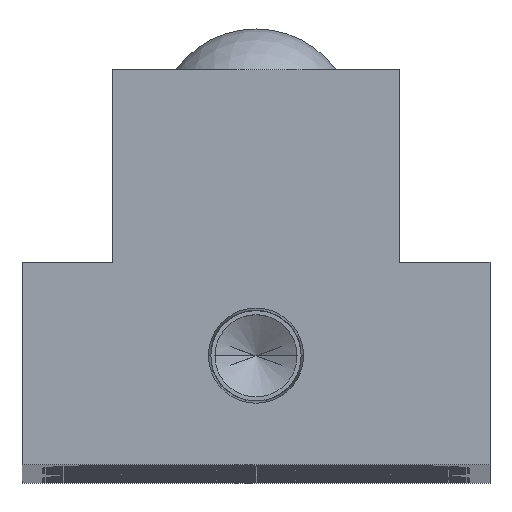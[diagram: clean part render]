
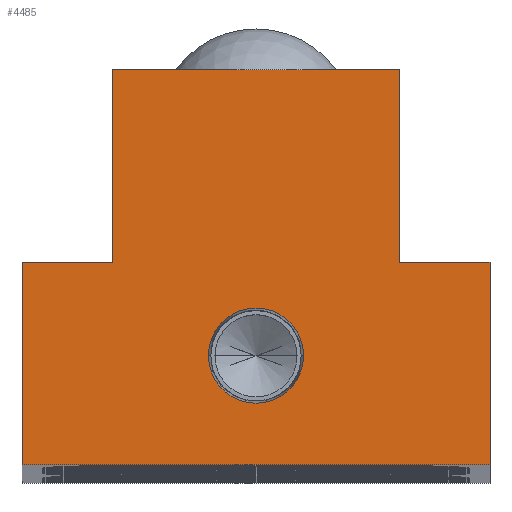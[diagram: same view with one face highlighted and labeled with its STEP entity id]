
A CAD part, top view. The second image highlights one B-rep face of the part: STEP entity #4485.
In plain terms, the highlighted planar face has unit normal (0, 0, 1).
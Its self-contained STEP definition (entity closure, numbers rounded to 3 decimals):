
#96 = LINE ( 'NONE', #17527, #14506 ) ;
#398 = CIRCLE ( 'NONE', #16063, 4.574 ) ;
#704 = EDGE_LOOP ( 'NONE', ( #10262, #10228 ) ) ;
#1515 = LINE ( 'NONE', #18096, #15492 ) ;
#1892 = AXIS2_PLACEMENT_3D ( 'NONE', #3346, #13091, #4758 ) ;
#1984 = DIRECTION ( 'NONE',  ( 0., 0., -1. ) ) ;
#2213 = EDGE_LOOP ( 'NONE', ( #8775, #17348, #9453, #2744, #15029, #15275, #4323, #14513 ) ) ;
#2595 = VECTOR ( 'NONE', #12743, 1000. ) ;
#2611 = DIRECTION ( 'NONE',  ( 0., -1., 0. ) ) ;
#2744 = ORIENTED_EDGE ( 'NONE', *, *, #11717, .T. ) ;
#3032 = DIRECTION ( 'NONE',  ( -1., 0., 0. ) ) ;
#3043 = LINE ( 'NONE', #11342, #2595 ) ;
#3076 = CARTESIAN_POINT ( 'NONE',  ( 0., 10.5, 0. ) ) ;
#3300 = CARTESIAN_POINT ( 'NONE',  ( -22.5, 0., 0. ) ) ;
#3346 = CARTESIAN_POINT ( 'NONE',  ( 0., 10.5, 0. ) ) ;
#3805 = EDGE_CURVE ( 'NONE', #17027, #16909, #8686, .T. ) ;
#3850 = CIRCLE ( 'NONE', #1892, 4.574 ) ;
#4323 = ORIENTED_EDGE ( 'NONE', *, *, #9899, .T. ) ;
#4485 = ADVANCED_FACE ( 'NONE', ( #16772, #17206 ), #13015, .F. ) ;
#4490 = DIRECTION ( 'NONE',  ( 1., 0., 0. ) ) ;
#4571 = VECTOR ( 'NONE', #2611, 1000. ) ;
#4708 = DIRECTION ( 'NONE',  ( 0., -1., 0. ) ) ;
#4758 = DIRECTION ( 'NONE',  ( 1., 0., 0. ) ) ;
#5252 = CARTESIAN_POINT ( 'NONE',  ( 13.75, 38., 0. ) ) ;
#5449 = VERTEX_POINT ( 'NONE', #9586 ) ;
#6249 = LINE ( 'NONE', #12766, #13225 ) ;
#6432 = EDGE_CURVE ( 'NONE', #14026, #6479, #96, .T. ) ;
#6479 = VERTEX_POINT ( 'NONE', #17651 ) ;
#6553 = VERTEX_POINT ( 'NONE', #5252 ) ;
#6631 = CARTESIAN_POINT ( 'NONE',  ( 22.5, 0., 0. ) ) ;
#6790 = CARTESIAN_POINT ( 'NONE',  ( -13.75, 19.5, 0. ) ) ;
#7799 = CARTESIAN_POINT ( 'NONE',  ( 22.5, 0., 0. ) ) ;
#8214 = CARTESIAN_POINT ( 'NONE',  ( -13.75, 38., 0. ) ) ;
#8455 = LINE ( 'NONE', #8827, #15036 ) ;
#8686 = LINE ( 'NONE', #8214, #4571 ) ;
#8775 = ORIENTED_EDGE ( 'NONE', *, *, #6432, .T. ) ;
#8827 = CARTESIAN_POINT ( 'NONE',  ( -22.5, 19.5, 0. ) ) ;
#9320 = EDGE_CURVE ( 'NONE', #17215, #6553, #1515, .T. ) ;
#9453 = ORIENTED_EDGE ( 'NONE', *, *, #9320, .T. ) ;
#9538 = LINE ( 'NONE', #6790, #16568 ) ;
#9586 = CARTESIAN_POINT ( 'NONE',  ( 4.574, 10.5, 0. ) ) ;
#9899 = EDGE_CURVE ( 'NONE', #14125, #13218, #8455, .T. ) ;
#10118 = VERTEX_POINT ( 'NONE', #16473 ) ;
#10228 = ORIENTED_EDGE ( 'NONE', *, *, #17355, .F. ) ;
#10262 = ORIENTED_EDGE ( 'NONE', *, *, #10876, .F. ) ;
#10740 = EDGE_CURVE ( 'NONE', #16909, #14125, #9538, .T. ) ;
#10876 = EDGE_CURVE ( 'NONE', #5449, #10118, #398, .T. ) ;
#11076 = CARTESIAN_POINT ( 'NONE',  ( -22.5, 19.5, 0. ) ) ;
#11264 = CARTESIAN_POINT ( 'NONE',  ( 13.75, 19.5, 0. ) ) ;
#11342 = CARTESIAN_POINT ( 'NONE',  ( 22.5, 19.5, 0. ) ) ;
#11717 = EDGE_CURVE ( 'NONE', #6553, #17027, #6249, .T. ) ;
#11725 = DIRECTION ( 'NONE',  ( -1., 0., 0. ) ) ;
#11872 = CARTESIAN_POINT ( 'NONE',  ( -13.75, 19.5, 0. ) ) ;
#11947 = DIRECTION ( 'NONE',  ( 0., 1., 0. ) ) ;
#12743 = DIRECTION ( 'NONE',  ( -1., 0., 0. ) ) ;
#12766 = CARTESIAN_POINT ( 'NONE',  ( -13.75, 38., 0. ) ) ;
#12815 = DIRECTION ( 'NONE',  ( 0., 0., 1. ) ) ;
#13015 = PLANE ( 'NONE',  #14898 ) ;
#13091 = DIRECTION ( 'NONE',  ( 0., 0., 1. ) ) ;
#13218 = VERTEX_POINT ( 'NONE', #3300 ) ;
#13225 = VECTOR ( 'NONE', #3032, 1000. ) ;
#14026 = VERTEX_POINT ( 'NONE', #6631 ) ;
#14122 = VECTOR ( 'NONE', #17575, 1000. ) ;
#14125 = VERTEX_POINT ( 'NONE', #11076 ) ;
#14506 = VECTOR ( 'NONE', #11947, 1000. ) ;
#14513 = ORIENTED_EDGE ( 'NONE', *, *, #16908, .T. ) ;
#14898 = AXIS2_PLACEMENT_3D ( 'NONE', #17301, #1984, #11725 ) ;
#15029 = ORIENTED_EDGE ( 'NONE', *, *, #3805, .T. ) ;
#15036 = VECTOR ( 'NONE', #4708, 1000. ) ;
#15275 = ORIENTED_EDGE ( 'NONE', *, *, #10740, .T. ) ;
#15292 = DIRECTION ( 'NONE',  ( 0., 1., 0. ) ) ;
#15492 = VECTOR ( 'NONE', #15292, 1000. ) ;
#15576 = EDGE_CURVE ( 'NONE', #6479, #17215, #3043, .T. ) ;
#16063 = AXIS2_PLACEMENT_3D ( 'NONE', #3076, #12815, #4490 ) ;
#16473 = CARTESIAN_POINT ( 'NONE',  ( -4.574, 10.5, 0. ) ) ;
#16568 = VECTOR ( 'NONE', #18101, 1000. ) ;
#16772 = FACE_BOUND ( 'NONE', #704, .T. ) ;
#16908 = EDGE_CURVE ( 'NONE', #13218, #14026, #17829, .T. ) ;
#16909 = VERTEX_POINT ( 'NONE', #11872 ) ;
#17027 = VERTEX_POINT ( 'NONE', #17876 ) ;
#17206 = FACE_OUTER_BOUND ( 'NONE', #2213, .T. ) ;
#17215 = VERTEX_POINT ( 'NONE', #11264 ) ;
#17301 = CARTESIAN_POINT ( 'NONE',  ( 0., 0., 0. ) ) ;
#17348 = ORIENTED_EDGE ( 'NONE', *, *, #15576, .T. ) ;
#17355 = EDGE_CURVE ( 'NONE', #10118, #5449, #3850, .T. ) ;
#17527 = CARTESIAN_POINT ( 'NONE',  ( 22.5, 19.5, 0. ) ) ;
#17575 = DIRECTION ( 'NONE',  ( 1., 0., 0. ) ) ;
#17651 = CARTESIAN_POINT ( 'NONE',  ( 22.5, 19.5, 0. ) ) ;
#17829 = LINE ( 'NONE', #7799, #14122 ) ;
#17876 = CARTESIAN_POINT ( 'NONE',  ( -13.75, 38., 0. ) ) ;
#18096 = CARTESIAN_POINT ( 'NONE',  ( 13.75, 38., 0. ) ) ;
#18101 = DIRECTION ( 'NONE',  ( -1., 0., 0. ) ) ;
